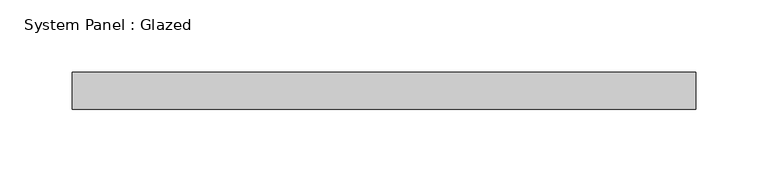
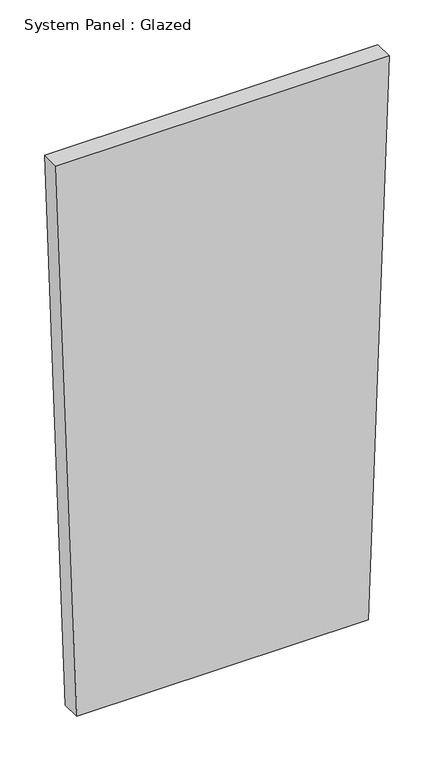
"""IFC4 building model written with IfcOpenShell, lengths in millimetres: plate geometry, System Panel : Glazed."""

from ifc_helpers import new_model, si_unit, frame, origin, place, context, project, spatial, polyline, outline, extrude, source, transform, mapped, element, save


def system_panel_glazed_2e4be7a0(model_context):
    return source(origin(), model_context, "Body", "SweptSolid", [
        extrude(outline(polyline([(0.0, -188.5341041), (0.0, 188.5341041), (761.5238602, 215.4675475), (761.5238602, -215.4675475), (0.0, -188.5341041)])), frame((0.0, -44.45, 0.0), z_axis=(0.0, 1.0, 0.0), x_axis=(0.0, 0.0, 1.0)), (0.0, 0.0, 1.0), 25.4),
    ])


if __name__ == "__main__":
    model = new_model("IFC4")
    model_context = context("Model", 3, world=origin())
    ifc_project = project(units=[si_unit("LENGTHUNIT", "METRE", prefix="MILLI")], contexts=[model_context])
    site = spatial("IfcSite", under=ifc_project)
    building = spatial("IfcBuilding", under=site)
    placement = place(None, origin())
    system_panel_glazed_shape = system_panel_glazed_2e4be7a0(model_context)
    element("IfcPlate", 1, ObjectType="System Panel : Glazed", at=placement, inside=building, context=model_context, shape_type="MappedRepresentation", body=[
        mapped(system_panel_glazed_shape, transform((0.0, 0.0, 0.0), x_axis=(1.0, 0.0, 0.0), y_axis=(0.0, 1.0, 0.0), z_axis=(0.0, 0.0, 1.0))),
    ])
    save(model, "model.ifc")
